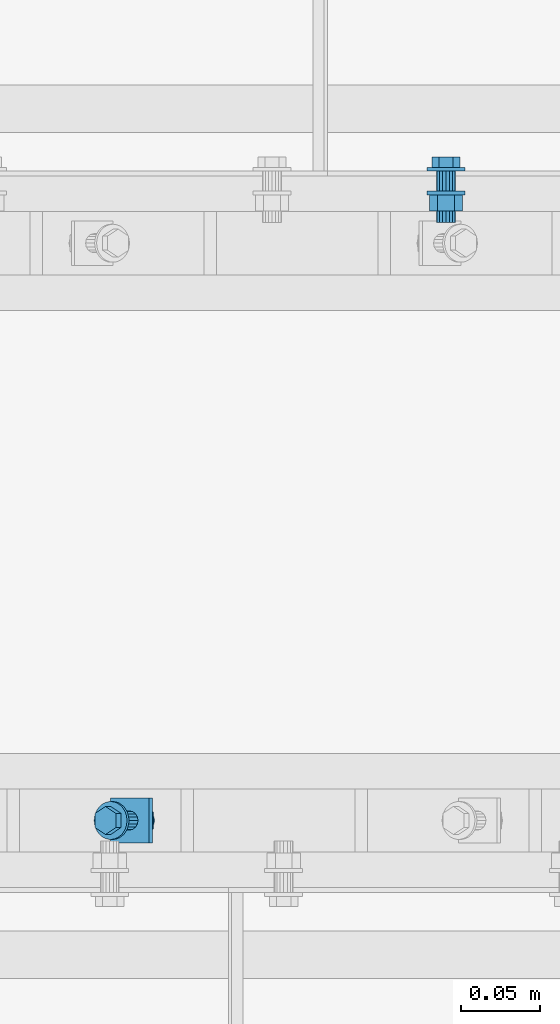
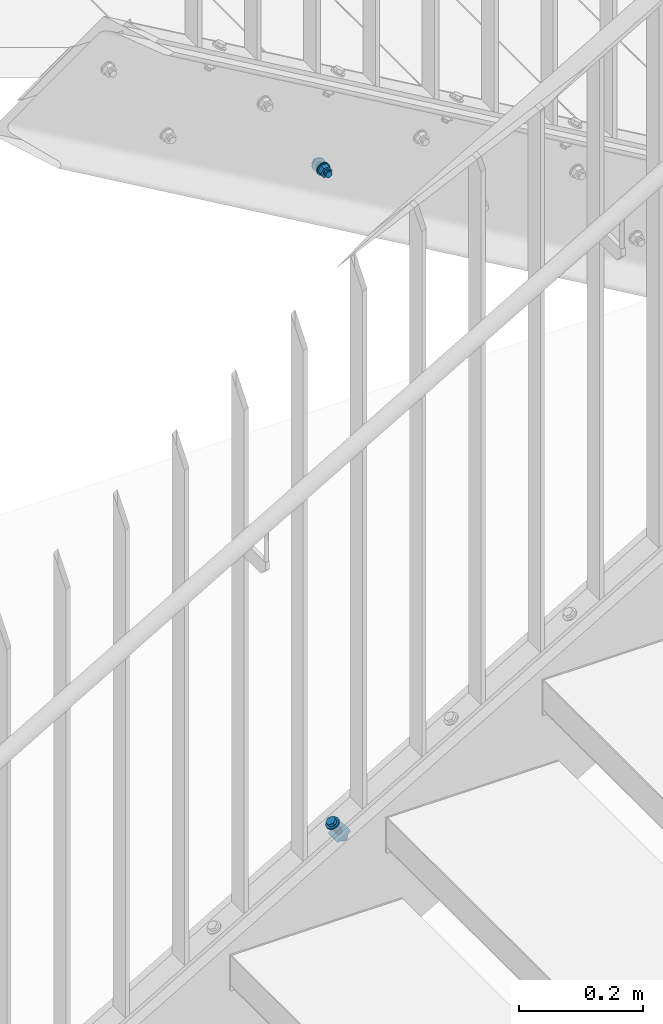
# One storey, part 92 of 145: 2 mechanical fasteners.
"""IFC2X3 building model written with IfcOpenShell, lengths in millimetres."""

from ifc_helpers import new_model, entity, si_unit, converted_unit, origin_with_axes, place, context, project, spatial, faceted_brep, element, save


model = new_model("IFC2X3")

# Units and contexts
model_context = context("Model", 3, precision=1e-09, world=origin_with_axes())
ifc_project = project(units=[si_unit("LENGTHUNIT", "METRE", prefix="MILLI"), si_unit("AREAUNIT", "SQUARE_METRE"), si_unit("VOLUMEUNIT", "CUBIC_METRE"), converted_unit("PLANEANGLEUNIT", "DEGREE", entity("IfcPlaneAngleMeasure", 0.01745329), si_unit("PLANEANGLEUNIT", "RADIAN"), dimensions=[0, 0, 0, 0, 0, 0, 0])], contexts=[model_context])

# Site, building, storey
site_placement = place(None, origin_with_axes())
site = spatial("IfcSite", under=ifc_project, at=site_placement, Name="BZ1 Grund- und Mittelschule 85716 Unterschlei?heim", CompositionType="ELEMENT")
building_placement = place(site_placement, origin_with_axes())
building = spatial("IfcBuilding", under=site, at=building_placement, Name="Struktur 1", CompositionType="ELEMENT")
storey_placement = place(building_placement, origin_with_axes())
storey = spatial("IfcBuildingStorey", under=building, at=storey_placement, Name="Default Storey", CompositionType="ELEMENT", Elevation=0.0)

# Mechanical fasteners
mechanical_fastener_1_placement = place(None, origin_with_axes())
element("IfcMechanicalFastener", 1, at=mechanical_fastener_1_placement, inside=storey, ObjectType="-", NominalDiameter=12.0, NominalLength=35.0, context=model_context, shape_type="Brep", body=[
    faceted_brep([(19122.1419848, -1467.002, 2002.545454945), (19122.1419848, -1464.502, 2002.545454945), (19124.483068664, -1464.502, 2002.776031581), (19124.483068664, -1467.002, 2002.776031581), (19126.734185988, -1464.502, 2003.458900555), (19126.734185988, -1467.002, 2003.458900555), (19128.808827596, -1464.502, 2004.567819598), (19128.808827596, -1467.002, 2004.567819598), (19130.627266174, -1464.502, 2006.060173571), (19130.627266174, -1467.002, 2006.060173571), (19132.119620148, -1464.502, 2007.878612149), (19132.119620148, -1467.002, 2007.878612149), (19133.22853919, -1464.502, 2009.953253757), (19133.22853919, -1467.002, 2009.953253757), (19133.911408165, -1464.502, 2012.204371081), (19133.911408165, -1467.002, 2012.204371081), (19134.1419848, -1464.502, 2014.545454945), (19134.1419848, -1467.002, 2014.545454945), (19133.911408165, -1464.502, 2016.88653881), (19133.911408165, -1467.002, 2016.88653881), (19133.22853919, -1464.502, 2019.137656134), (19133.22853919, -1467.002, 2019.137656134), (19132.119620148, -1464.502, 2021.212297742), (19132.119620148, -1467.002, 2021.212297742), (19130.627266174, -1464.502, 2023.03073632), (19130.627266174, -1467.002, 2023.03073632), (19128.808827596, -1464.502, 2024.523090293), (19128.808827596, -1467.002, 2024.523090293), (19126.734185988, -1464.502, 2025.632009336), (19126.734185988, -1467.002, 2025.632009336), (19124.483068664, -1464.502, 2026.31487831), (19124.483068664, -1467.002, 2026.31487831), (19122.1419848, -1464.502, 2026.545454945), (19122.1419848, -1467.002, 2026.545454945), (19119.800900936, -1464.502, 2026.31487831), (19119.800900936, -1467.002, 2026.31487831), (19117.549783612, -1464.502, 2025.632009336), (19117.549783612, -1467.002, 2025.632009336), (19115.475142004, -1464.502, 2024.523090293), (19115.475142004, -1467.002, 2024.523090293), (19113.656703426, -1464.502, 2023.03073632), (19113.656703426, -1467.002, 2023.03073632), (19112.164349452, -1464.502, 2021.212297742), (19112.164349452, -1467.002, 2021.212297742), (19111.05543041, -1464.502, 2019.137656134), (19111.05543041, -1467.002, 2019.137656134), (19110.372561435, -1464.502, 2016.88653881), (19110.372561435, -1467.002, 2016.88653881), (19110.1419848, -1464.502, 2014.545454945), (19110.1419848, -1467.002, 2014.545454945), (19110.372561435, -1464.502, 2012.204371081), (19110.372561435, -1467.002, 2012.204371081), (19111.05543041, -1464.502, 2009.953253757), (19111.05543041, -1467.002, 2009.953253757), (19112.164349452, -1464.502, 2007.878612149), (19112.164349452, -1467.002, 2007.878612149), (19113.656703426, -1464.502, 2006.060173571), (19113.656703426, -1467.002, 2006.060173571), (19115.475142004, -1464.502, 2004.567819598), (19115.475142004, -1467.002, 2004.567819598), (19117.549783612, -1464.502, 2003.458900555), (19117.549783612, -1467.002, 2003.458900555), (19119.800900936, -1464.502, 2002.776031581), (19119.800900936, -1467.002, 2002.776031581)], [[[0, 1, 2, 3]], [[3, 2, 4, 5]], [[5, 4, 6, 7]], [[7, 6, 8, 9]], [[9, 8, 10, 11]], [[11, 10, 12, 13]], [[13, 12, 14, 15]], [[15, 14, 16, 17]], [[17, 16, 18, 19]], [[19, 18, 20, 21]], [[21, 20, 22, 23]], [[23, 22, 24, 25]], [[25, 24, 26, 27]], [[27, 26, 28, 29]], [[29, 28, 30, 31]], [[31, 30, 32, 33]], [[33, 32, 34, 35]], [[35, 34, 36, 37]], [[37, 36, 38, 39]], [[39, 38, 40, 41]], [[41, 40, 42, 43]], [[43, 42, 44, 45]], [[45, 44, 46, 47]], [[47, 46, 48, 49]], [[49, 48, 50, 51]], [[51, 50, 52, 53]], [[53, 52, 54, 55]], [[55, 54, 56, 57]], [[57, 56, 58, 59]], [[59, 58, 60, 61]], [[61, 60, 62, 63]], [[63, 62, 1, 0]], [[2, 1, 62, 60, 58, 56, 54, 52, 50, 48, 46, 44, 42, 40, 38, 36, 34, 32, 30, 28, 26, 24, 22, 20, 18, 16, 14, 12, 10, 8, 6, 4]], [[63, 0, 3, 5, 7, 9, 11, 13, 15, 17, 19, 21, 23, 25, 27, 29, 31, 33, 35, 37, 39, 41, 43, 45, 47, 49, 51, 53, 55, 57, 59, 61]]]),
    faceted_brep([(19126.5844848, -1458.102, 2022.240090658), (19126.5844848, -1464.502, 2022.240090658), (19131.0269848, -1464.502, 2014.545454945), (19131.0269848, -1458.102, 2014.545454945), (19126.5844848, -1464.502, 2006.850819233), (19126.5844848, -1458.102, 2006.850819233), (19117.6994848, -1464.502, 2006.850819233), (19117.6994848, -1458.102, 2006.850819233), (19113.2569848, -1464.502, 2014.545454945), (19113.2569848, -1458.102, 2014.545454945), (19117.6994848, -1464.502, 2022.240090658), (19117.6994848, -1458.102, 2022.240090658)], [[[0, 1, 2, 3]], [[3, 2, 4, 5]], [[5, 4, 6, 7]], [[7, 6, 8, 9]], [[9, 8, 10, 11]], [[11, 10, 1, 0]], [[3, 5, 7, 9, 11, 0]], [[2, 1, 10, 8, 6, 4]]]),
    faceted_brep([(19122.1419848, -1479.502, 2008.545454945), (19122.1419848, -1467.002, 2008.545454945), (19124.438085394, -1467.002, 2009.00217775), (19124.438085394, -1479.502, 2009.00217775), (19126.384625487, -1467.002, 2010.302814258), (19126.384625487, -1479.502, 2010.302814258), (19127.685261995, -1467.002, 2012.249354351), (19127.685261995, -1479.502, 2012.249354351), (19128.1419848, -1467.002, 2014.545454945), (19128.1419848, -1479.502, 2014.545454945), (19127.685261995, -1467.002, 2016.84155554), (19127.685261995, -1479.502, 2016.84155554), (19126.384625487, -1467.002, 2018.788095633), (19126.384625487, -1479.502, 2018.788095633), (19124.438085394, -1467.002, 2020.088732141), (19124.438085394, -1479.502, 2020.088732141), (19122.1419848, -1467.002, 2020.545454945), (19122.1419848, -1479.502, 2020.545454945), (19119.845884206, -1467.002, 2020.088732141), (19119.845884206, -1479.502, 2020.088732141), (19117.899344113, -1467.002, 2018.788095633), (19117.899344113, -1479.502, 2018.788095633), (19116.598707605, -1467.002, 2016.84155554), (19116.598707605, -1479.502, 2016.84155554), (19116.1419848, -1467.002, 2014.545454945), (19116.1419848, -1479.502, 2014.545454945), (19116.598707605, -1467.002, 2012.249354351), (19116.598707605, -1479.502, 2012.249354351), (19117.899344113, -1467.002, 2010.302814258), (19117.899344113, -1479.502, 2010.302814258), (19119.845884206, -1467.002, 2009.00217775), (19119.845884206, -1479.502, 2009.00217775)], [[[0, 1, 2, 3]], [[3, 2, 4, 5]], [[5, 4, 6, 7]], [[7, 6, 8, 9]], [[9, 8, 10, 11]], [[11, 10, 12, 13]], [[13, 12, 14, 15]], [[15, 14, 16, 17]], [[17, 16, 18, 19]], [[19, 18, 20, 21]], [[21, 20, 22, 23]], [[23, 22, 24, 25]], [[25, 24, 26, 27]], [[27, 26, 28, 29]], [[29, 28, 30, 31]], [[31, 30, 1, 0]], [[2, 1, 30, 28, 26, 24, 22, 20, 18, 16, 14, 12, 10, 8, 6, 4]], [[31, 0, 3, 5, 7, 9, 11, 13, 15, 17, 19, 21, 23, 25, 27, 29]]]),
    faceted_brep([(19122.1419848, -1482.002, 2002.545454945), (19122.1419848, -1479.502, 2002.545454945), (19124.483068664, -1479.502, 2002.776031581), (19124.483068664, -1482.002, 2002.776031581), (19126.734185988, -1479.502, 2003.458900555), (19126.734185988, -1482.002, 2003.458900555), (19128.808827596, -1479.502, 2004.567819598), (19128.808827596, -1482.002, 2004.567819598), (19130.627266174, -1479.502, 2006.060173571), (19130.627266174, -1482.002, 2006.060173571), (19132.119620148, -1479.502, 2007.878612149), (19132.119620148, -1482.002, 2007.878612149), (19133.22853919, -1479.502, 2009.953253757), (19133.22853919, -1482.002, 2009.953253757), (19133.911408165, -1479.502, 2012.204371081), (19133.911408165, -1482.002, 2012.204371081), (19134.1419848, -1479.502, 2014.545454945), (19134.1419848, -1482.002, 2014.545454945), (19133.911408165, -1479.502, 2016.88653881), (19133.911408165, -1482.002, 2016.88653881), (19133.22853919, -1479.502, 2019.137656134), (19133.22853919, -1482.002, 2019.137656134), (19132.119620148, -1479.502, 2021.212297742), (19132.119620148, -1482.002, 2021.212297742), (19130.627266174, -1479.502, 2023.03073632), (19130.627266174, -1482.002, 2023.03073632), (19128.808827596, -1479.502, 2024.523090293), (19128.808827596, -1482.002, 2024.523090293), (19126.734185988, -1479.502, 2025.632009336), (19126.734185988, -1482.002, 2025.632009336), (19124.483068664, -1479.502, 2026.31487831), (19124.483068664, -1482.002, 2026.31487831), (19122.1419848, -1479.502, 2026.545454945), (19122.1419848, -1482.002, 2026.545454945), (19119.800900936, -1479.502, 2026.31487831), (19119.800900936, -1482.002, 2026.31487831), (19117.549783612, -1479.502, 2025.632009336), (19117.549783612, -1482.002, 2025.632009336), (19115.475142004, -1479.502, 2024.523090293), (19115.475142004, -1482.002, 2024.523090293), (19113.656703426, -1479.502, 2023.03073632), (19113.656703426, -1482.002, 2023.03073632), (19112.164349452, -1479.502, 2021.212297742), (19112.164349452, -1482.002, 2021.212297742), (19111.05543041, -1479.502, 2019.137656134), (19111.05543041, -1482.002, 2019.137656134), (19110.372561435, -1479.502, 2016.88653881), (19110.372561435, -1482.002, 2016.88653881), (19110.1419848, -1479.502, 2014.545454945), (19110.1419848, -1482.002, 2014.545454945), (19110.372561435, -1479.502, 2012.204371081), (19110.372561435, -1482.002, 2012.204371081), (19111.05543041, -1479.502, 2009.953253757), (19111.05543041, -1482.002, 2009.953253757), (19112.164349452, -1479.502, 2007.878612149), (19112.164349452, -1482.002, 2007.878612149), (19113.656703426, -1479.502, 2006.060173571), (19113.656703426, -1482.002, 2006.060173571), (19115.475142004, -1479.502, 2004.567819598), (19115.475142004, -1482.002, 2004.567819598), (19117.549783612, -1479.502, 2003.458900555), (19117.549783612, -1482.002, 2003.458900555), (19119.800900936, -1479.502, 2002.776031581), (19119.800900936, -1482.002, 2002.776031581)], [[[0, 1, 2, 3]], [[3, 2, 4, 5]], [[5, 4, 6, 7]], [[7, 6, 8, 9]], [[9, 8, 10, 11]], [[11, 10, 12, 13]], [[13, 12, 14, 15]], [[15, 14, 16, 17]], [[17, 16, 18, 19]], [[19, 18, 20, 21]], [[21, 20, 22, 23]], [[23, 22, 24, 25]], [[25, 24, 26, 27]], [[27, 26, 28, 29]], [[29, 28, 30, 31]], [[31, 30, 32, 33]], [[33, 32, 34, 35]], [[35, 34, 36, 37]], [[37, 36, 38, 39]], [[39, 38, 40, 41]], [[41, 40, 42, 43]], [[43, 42, 44, 45]], [[45, 44, 46, 47]], [[47, 46, 48, 49]], [[49, 48, 50, 51]], [[51, 50, 52, 53]], [[53, 52, 54, 55]], [[55, 54, 56, 57]], [[57, 56, 58, 59]], [[59, 58, 60, 61]], [[61, 60, 62, 63]], [[63, 62, 1, 0]], [[2, 1, 62, 60, 58, 56, 54, 52, 50, 48, 46, 44, 42, 40, 38, 36, 34, 32, 30, 28, 26, 24, 22, 20, 18, 16, 14, 12, 10, 8, 6, 4]], [[63, 0, 3, 5, 7, 9, 11, 13, 15, 17, 19, 21, 23, 25, 27, 29, 31, 33, 35, 37, 39, 41, 43, 45, 47, 49, 51, 53, 55, 57, 59, 61]]]),
    faceted_brep([(19127.4169848, -1482.002, 2023.682022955), (19127.4169848, -1492.002, 2023.682022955), (19132.6919848, -1492.002, 2014.545454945), (19132.6919848, -1482.002, 2014.545454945), (19127.4169848, -1492.002, 2005.408886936), (19127.4169848, -1482.002, 2005.408886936), (19116.8669848, -1492.002, 2005.408886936), (19116.8669848, -1482.002, 2005.408886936), (19111.5919848, -1492.002, 2014.545454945), (19111.5919848, -1482.002, 2014.545454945), (19116.8669848, -1492.002, 2023.682022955), (19116.8669848, -1482.002, 2023.682022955)], [[[0, 1, 2, 3]], [[3, 2, 4, 5]], [[5, 4, 6, 7]], [[7, 6, 8, 9]], [[9, 8, 10, 11]], [[11, 10, 1, 0]], [[3, 5, 7, 9, 11, 0]], [[2, 1, 10, 8, 6, 4]]]),
    faceted_brep([(19122.1419848, -1499.502, 2008.545454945), (19122.1419848, -1492.002, 2008.545454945), (19124.438085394, -1492.002, 2009.00217775), (19124.438085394, -1499.502, 2009.00217775), (19126.384625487, -1492.002, 2010.302814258), (19126.384625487, -1499.502, 2010.302814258), (19127.685261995, -1492.002, 2012.249354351), (19127.685261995, -1499.502, 2012.249354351), (19128.1419848, -1492.002, 2014.545454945), (19128.1419848, -1499.502, 2014.545454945), (19127.685261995, -1492.002, 2016.84155554), (19127.685261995, -1499.502, 2016.84155554), (19126.384625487, -1492.002, 2018.788095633), (19126.384625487, -1499.502, 2018.788095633), (19124.438085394, -1492.002, 2020.088732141), (19124.438085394, -1499.502, 2020.088732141), (19122.1419848, -1492.002, 2020.545454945), (19122.1419848, -1499.502, 2020.545454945), (19119.845884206, -1492.002, 2020.088732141), (19119.845884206, -1499.502, 2020.088732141), (19117.899344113, -1492.002, 2018.788095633), (19117.899344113, -1499.502, 2018.788095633), (19116.598707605, -1492.002, 2016.84155554), (19116.598707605, -1499.502, 2016.84155554), (19116.1419848, -1492.002, 2014.545454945), (19116.1419848, -1499.502, 2014.545454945), (19116.598707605, -1492.002, 2012.249354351), (19116.598707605, -1499.502, 2012.249354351), (19117.899344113, -1492.002, 2010.302814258), (19117.899344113, -1499.502, 2010.302814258), (19119.845884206, -1492.002, 2009.00217775), (19119.845884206, -1499.502, 2009.00217775)], [[[0, 1, 2, 3]], [[3, 2, 4, 5]], [[5, 4, 6, 7]], [[7, 6, 8, 9]], [[9, 8, 10, 11]], [[11, 10, 12, 13]], [[13, 12, 14, 15]], [[15, 14, 16, 17]], [[17, 16, 18, 19]], [[19, 18, 20, 21]], [[21, 20, 22, 23]], [[23, 22, 24, 25]], [[25, 24, 26, 27]], [[27, 26, 28, 29]], [[29, 28, 30, 31]], [[31, 30, 1, 0]], [[2, 1, 30, 28, 26, 24, 22, 20, 18, 16, 14, 12, 10, 8, 6, 4]], [[31, 0, 3, 5, 7, 9, 11, 13, 15, 17, 19, 21, 23, 25, 27, 29]]]),
])
mechanical_fastener_2_placement = place(None, origin_with_axes())
element("IfcMechanicalFastener", 2, at=mechanical_fastener_2_placement, inside=storey, ObjectType="-", NominalDiameter=12.0, NominalLength=45.0, context=model_context, shape_type="Brep", body=[
    faceted_brep([(18900.951005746, -1877.502, 1038.371007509), (18899.69427798, -1877.502, 1040.532172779), (18899.893603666, -1875.160916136, 1040.648081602), (18901.150331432, -1875.160916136, 1038.486916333), (18900.483920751, -1872.909798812, 1040.991353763), (18901.740648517, -1872.909798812, 1038.830188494), (18901.442543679, -1870.835157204, 1041.548797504), (18902.699271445, -1870.835157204, 1039.387632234), (18902.73263311, -1869.016718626, 1042.298990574), (18903.989360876, -1869.016718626, 1040.137825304), (18904.304611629, -1867.524364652, 1043.213103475), (18905.561339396, -1867.524364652, 1041.051938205), (18906.098068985, -1866.41544561, 1044.25600736), (18907.354796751, -1866.41544561, 1042.094842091), (18908.044083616, -1865.732576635, 1045.387624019), (18909.300811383, -1865.732576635, 1043.226458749), (18910.067871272, -1865.502, 1046.564466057), (18911.324599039, -1865.502, 1044.403300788), (18912.091658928, -1865.732576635, 1047.741308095), (18913.348386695, -1865.732576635, 1045.580142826), (18914.03767356, -1866.41544561, 1048.872924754), (18915.294401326, -1866.41544561, 1046.711759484), (18915.831130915, -1867.524364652, 1049.915828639), (18917.087858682, -1867.524364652, 1047.75466337), (18917.403109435, -1869.016718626, 1050.82994154), (18918.659837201, -1869.016718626, 1048.668776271), (18918.693198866, -1870.835157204, 1051.58013461), (18919.949926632, -1870.835157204, 1049.418969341), (18919.651821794, -1872.909798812, 1052.137578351), (18920.90854956, -1872.909798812, 1049.976413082), (18920.242138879, -1875.160916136, 1052.480850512), (18921.498866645, -1875.160916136, 1050.319685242), (18920.441464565, -1877.502, 1052.596759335), (18921.698192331, -1877.502, 1050.435594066), (18920.242138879, -1879.843083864, 1052.480850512), (18921.498866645, -1879.843083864, 1050.319685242), (18919.651821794, -1882.094201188, 1052.137578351), (18920.90854956, -1882.094201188, 1049.976413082), (18918.693198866, -1884.168842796, 1051.58013461), (18919.949926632, -1884.168842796, 1049.418969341), (18917.403109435, -1885.987281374, 1050.82994154), (18918.659837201, -1885.987281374, 1048.668776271), (18915.831130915, -1887.479635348, 1049.915828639), (18917.087858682, -1887.479635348, 1047.75466337), (18914.03767356, -1888.58855439, 1048.872924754), (18915.294401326, -1888.58855439, 1046.711759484), (18912.091658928, -1889.271423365, 1047.741308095), (18913.348386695, -1889.271423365, 1045.580142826), (18910.067871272, -1889.502, 1046.564466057), (18911.324599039, -1889.502, 1044.403300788), (18908.044083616, -1889.271423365, 1045.387624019), (18909.300811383, -1889.271423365, 1043.226458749), (18906.098068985, -1888.58855439, 1044.25600736), (18907.354796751, -1888.58855439, 1042.094842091), (18904.304611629, -1887.479635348, 1043.213103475), (18905.561339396, -1887.479635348, 1041.051938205), (18902.73263311, -1885.987281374, 1042.298990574), (18903.989360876, -1885.987281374, 1040.137825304), (18901.442543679, -1884.168842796, 1041.548797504), (18902.699271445, -1884.168842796, 1039.387632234), (18900.483920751, -1882.094201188, 1040.991353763), (18901.740648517, -1882.094201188, 1038.830188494), (18899.893603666, -1879.843083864, 1040.648081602), (18901.150331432, -1879.843083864, 1038.486916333)], [[[0, 1, 2, 3]], [[3, 2, 4, 5]], [[5, 4, 6, 7]], [[7, 6, 8, 9]], [[9, 8, 10, 11]], [[11, 10, 12, 13]], [[13, 12, 14, 15]], [[15, 14, 16, 17]], [[17, 16, 18, 19]], [[19, 18, 20, 21]], [[21, 20, 22, 23]], [[23, 22, 24, 25]], [[25, 24, 26, 27]], [[27, 26, 28, 29]], [[29, 28, 30, 31]], [[31, 30, 32, 33]], [[33, 32, 34, 35]], [[35, 34, 36, 37]], [[37, 36, 38, 39]], [[39, 38, 40, 41]], [[41, 40, 42, 43]], [[43, 42, 44, 45]], [[45, 44, 46, 47]], [[47, 46, 48, 49]], [[49, 48, 50, 51]], [[51, 50, 52, 53]], [[53, 52, 54, 55]], [[55, 54, 56, 57]], [[57, 56, 58, 59]], [[59, 58, 60, 61]], [[61, 60, 62, 63]], [[63, 62, 1, 0]], [[2, 1, 62, 60, 58, 56, 54, 52, 50, 48, 46, 44, 42, 40, 38, 36, 34, 32, 30, 28, 26, 24, 22, 20, 18, 16, 14, 12, 10, 8, 6, 4]], [[63, 0, 3, 5, 7, 9, 11, 13, 15, 17, 19, 21, 23, 25, 27, 29, 31, 33, 35, 37, 39, 41, 43, 45, 47, 49, 51, 53, 55, 57, 59, 61]]]),
    faceted_brep([(18913.502399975, -1873.0595, 1055.965074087), (18916.719623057, -1873.0595, 1050.432490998), (18910.067871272, -1868.617, 1046.564466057), (18906.850648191, -1868.617, 1052.097049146), (18903.416119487, -1873.0595, 1042.696441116), (18900.198896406, -1873.0595, 1048.229024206), (18903.416119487, -1881.9445, 1042.696441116), (18900.198896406, -1881.9445, 1048.229024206), (18910.067871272, -1886.387, 1046.564466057), (18906.850648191, -1886.387, 1052.097049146), (18916.719623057, -1881.9445, 1050.432490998), (18913.502399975, -1881.9445, 1055.965074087)], [[[0, 1, 2, 3]], [[3, 2, 4, 5]], [[5, 4, 6, 7]], [[7, 6, 8, 9]], [[9, 8, 10, 11]], [[11, 10, 1, 0]], [[3, 5, 7, 9, 11, 0]], [[2, 1, 10, 8, 6, 4]]]),
    faceted_brep([(18917.037564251, -1877.502, 1022.643089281), (18906.137802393, -1877.502, 1041.387154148), (18906.532623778, -1875.205899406, 1041.61674464), (18917.432385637, -1875.205899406, 1022.872679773), (18907.656979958, -1873.259359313, 1042.270563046), (18918.556741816, -1873.259359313, 1023.526498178), (18909.339697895, -1871.958722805, 1043.249071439), (18920.239459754, -1871.958722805, 1024.505006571), (18911.324599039, -1871.502, 1044.403300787), (18922.224360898, -1871.502, 1025.65923592), (18913.309500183, -1871.958722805, 1045.557530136), (18924.209262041, -1871.958722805, 1026.813465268), (18914.99221812, -1873.259359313, 1046.536038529), (18925.891979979, -1873.259359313, 1027.791973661), (18916.1165743, -1875.205899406, 1047.189856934), (18927.016336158, -1875.205899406, 1028.445792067), (18916.511395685, -1877.502, 1047.419447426), (18927.411157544, -1877.502, 1028.675382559), (18916.1165743, -1879.798100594, 1047.189856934), (18927.016336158, -1879.798100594, 1028.445792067), (18914.99221812, -1881.744640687, 1046.536038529), (18925.891979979, -1881.744640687, 1027.791973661), (18913.309500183, -1883.045277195, 1045.557530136), (18924.209262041, -1883.045277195, 1026.813465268), (18911.324599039, -1883.502, 1044.403300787), (18922.224360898, -1883.502, 1025.65923592), (18909.339697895, -1883.045277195, 1043.249071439), (18920.239459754, -1883.045277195, 1024.505006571), (18907.656979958, -1881.744640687, 1042.270563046), (18918.556741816, -1881.744640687, 1023.526498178), (18906.532623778, -1879.798100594, 1041.61674464), (18917.432385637, -1879.798100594, 1022.872679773)], [[[0, 1, 2, 3]], [[3, 2, 4, 5]], [[5, 4, 6, 7]], [[7, 6, 8, 9]], [[9, 8, 10, 11]], [[11, 10, 12, 13]], [[13, 12, 14, 15]], [[15, 14, 16, 17]], [[17, 16, 18, 19]], [[19, 18, 20, 21]], [[21, 20, 22, 23]], [[23, 22, 24, 25]], [[25, 24, 26, 27]], [[27, 26, 28, 29]], [[29, 28, 30, 31]], [[31, 30, 1, 0]], [[2, 1, 30, 28, 26, 24, 22, 20, 18, 16, 14, 12, 10, 8, 6, 4]], [[31, 0, 3, 5, 7, 9, 11, 13, 15, 17, 19, 21, 23, 25, 27, 29]]]),
    faceted_brep([(18934.449757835, -1863.359864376, 1032.768361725), (18936.460522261, -1863.359864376, 1029.310497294), (18912.009728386, -1863.359864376, 1015.092245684), (18909.99896396, -1863.359864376, 1018.550110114), (18912.009728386, -1891.644135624, 1015.092245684), (18909.99896396, -1891.644135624, 1018.550110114), (18936.460522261, -1891.644135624, 1029.310497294), (18934.449757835, -1891.644135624, 1032.768361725)], [[[0, 1, 2, 3]], [[3, 2, 4, 5]], [[5, 4, 6, 7]], [[7, 6, 1, 0]], [[3, 5, 7, 0]], [[2, 1, 6, 4]]]),
    faceted_brep([(18932.133378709, -1872.227, 1026.794242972), (18937.160289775, -1872.227, 1018.149581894), (18929.262036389, -1866.952, 1013.556710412), (18924.235125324, -1866.952, 1022.201371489), (18921.363783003, -1872.227, 1008.963838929), (18916.336871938, -1872.227, 1017.608500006), (18921.363783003, -1882.777, 1008.963838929), (18916.336871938, -1882.777, 1017.608500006), (18929.262036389, -1888.052, 1013.556710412), (18924.235125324, -1888.052, 1022.201371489), (18937.160289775, -1882.777, 1018.149581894), (18932.133378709, -1882.777, 1026.794242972)], [[[0, 1, 2, 3]], [[3, 2, 4, 5]], [[5, 4, 6, 7]], [[7, 6, 8, 9]], [[9, 8, 10, 11]], [[11, 10, 1, 0]], [[3, 5, 7, 9, 11, 0]], [[2, 1, 10, 8, 6, 4]]]),
    faceted_brep([(18927.50217442, -1877.502, 1004.64734457), (18924.075239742, -1877.502, 1010.540563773), (18924.470061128, -1875.205899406, 1010.770154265), (18927.896995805, -1875.205899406, 1004.876935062), (18925.594417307, -1873.259359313, 1011.423972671), (18929.021351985, -1873.259359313, 1005.530753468), (18927.277135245, -1871.958722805, 1012.402481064), (18930.704069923, -1871.958722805, 1006.509261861), (18929.262036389, -1871.502, 1013.556710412), (18932.688971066, -1871.502, 1007.663491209), (18931.246937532, -1871.958722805, 1014.710939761), (18934.67387221, -1871.958722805, 1008.817720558), (18932.92965547, -1873.259359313, 1015.689448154), (18936.356590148, -1873.259359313, 1009.796228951), (18934.05401165, -1875.205899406, 1016.343266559), (18937.480946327, -1875.205899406, 1010.450047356), (18934.448833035, -1877.502, 1016.572857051), (18937.875767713, -1877.502, 1010.679637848), (18934.05401165, -1879.798100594, 1016.343266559), (18937.480946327, -1879.798100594, 1010.450047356), (18932.92965547, -1881.744640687, 1015.689448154), (18936.356590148, -1881.744640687, 1009.796228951), (18931.246937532, -1883.045277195, 1014.710939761), (18934.67387221, -1883.045277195, 1008.817720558), (18929.262036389, -1883.502, 1013.556710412), (18932.688971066, -1883.502, 1007.663491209), (18927.277135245, -1883.045277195, 1012.402481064), (18930.704069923, -1883.045277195, 1006.509261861), (18925.594417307, -1881.744640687, 1011.423972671), (18929.021351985, -1881.744640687, 1005.530753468), (18924.470061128, -1879.798100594, 1010.770154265), (18927.896995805, -1879.798100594, 1004.876935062)], [[[0, 1, 2, 3]], [[3, 2, 4, 5]], [[5, 4, 6, 7]], [[7, 6, 8, 9]], [[9, 8, 10, 11]], [[11, 10, 12, 13]], [[13, 12, 14, 15]], [[15, 14, 16, 17]], [[17, 16, 18, 19]], [[19, 18, 20, 21]], [[21, 20, 22, 23]], [[23, 22, 24, 25]], [[25, 24, 26, 27]], [[27, 26, 28, 29]], [[29, 28, 30, 31]], [[31, 30, 1, 0]], [[2, 1, 30, 28, 26, 24, 22, 20, 18, 16, 14, 12, 10, 8, 6, 4]], [[31, 0, 3, 5, 7, 9, 11, 13, 15, 17, 19, 21, 23, 25, 27, 29]]]),
])

save(model, "model.ifc")
